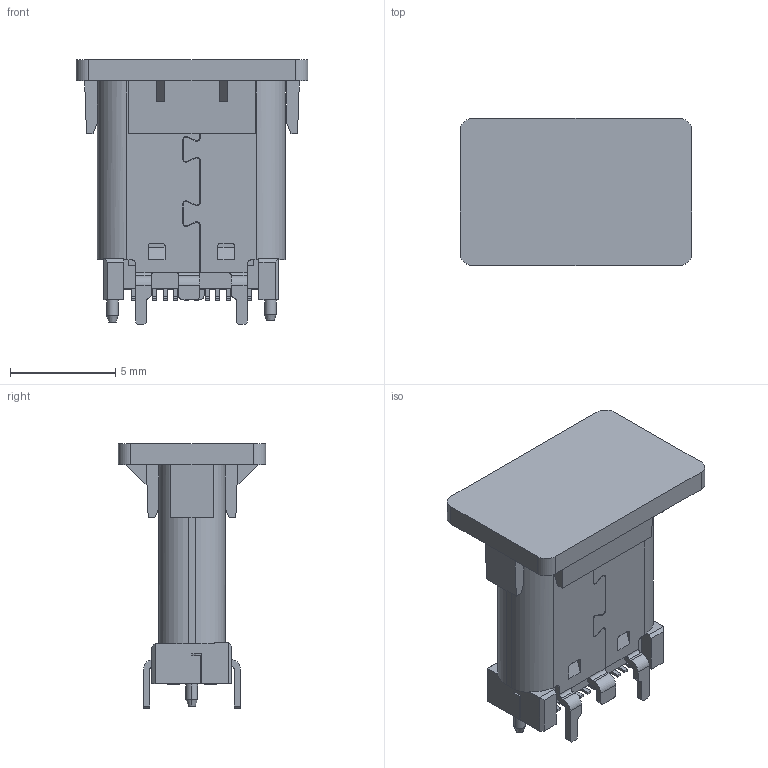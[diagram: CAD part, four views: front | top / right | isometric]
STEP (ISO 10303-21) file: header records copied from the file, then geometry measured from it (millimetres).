
FILE_DESCRIPTION((''),'2;1');
FILE_NAME('1022406GR001_TYPE-C_ASM','2018-11-08T',('Administrator'),(''),'PRO/ENGINEER BY PARAMETRIC TECHNOLOGY CORPORATION, 2010280','PRO/ENGINEER BY PARAMETRIC TECHNOLOGY CORPORATION, 2010280','');
FILE_SCHEMA(('CONFIG_CONTROL_DESIGN'));
Products named in the file (3): MSBR-2; MSBR-1; 1022406GR001_TYPE-C_ASM
Assembly tree (2 placements, depth 2):
  1022406GR001_TYPE-C_ASM
    MSBR-2
    MSBR-1
Bounding box: 11 x 7 x 12.55 mm (x, y, z)
Volume: 245.7 mm3; surface area: 1164.4 mm2
Topology: 2 solids, 7 shells, 2034 faces, 5916 edges, 3857 vertices
Faces by surface type: plane 1587, cylinder 417, cone 28, extrusion 2
Entity records: 67037 total; most frequent: CARTESIAN_POINT 12637, ORIENTED_EDGE 11832, DIRECTION 10665, EDGE_CURVE 5916, VECTOR 4911, LINE 4909, VERTEX_POINT 3857, AXIS2_PLACEMENT_3D 2877
